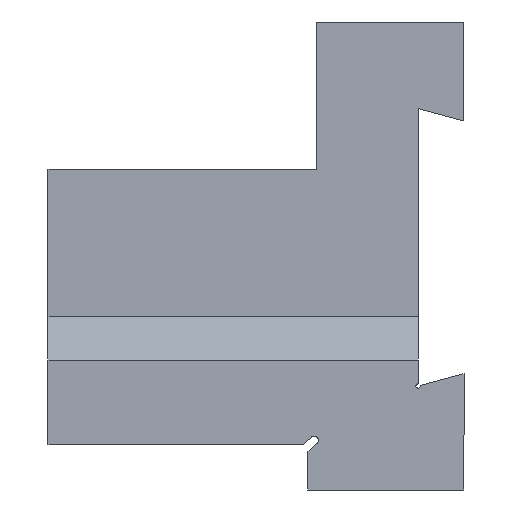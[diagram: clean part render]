
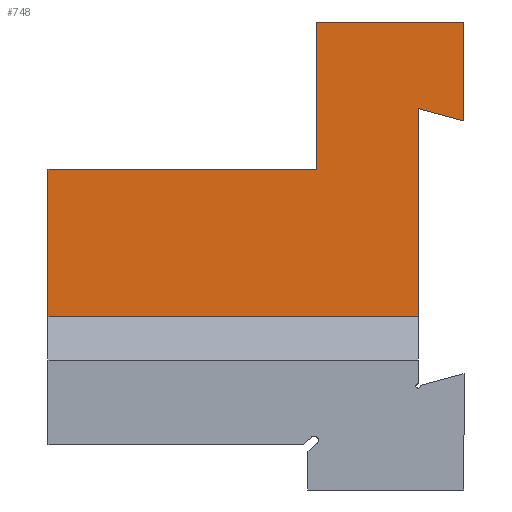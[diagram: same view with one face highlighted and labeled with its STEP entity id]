
A CAD part, front view. The second image highlights one B-rep face of the part: STEP entity #748.
In plain terms, the highlighted planar face has unit normal (0, -1, 0).
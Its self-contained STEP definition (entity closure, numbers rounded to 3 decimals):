
#88=FACE_OUTER_BOUND('',#138,.T.);
#138=EDGE_LOOP('',(#565,#566,#567,#568,#569,#570,#571,#572));
#186=LINE('',#1129,#258);
#198=LINE('',#1172,#270);
#211=LINE('',#1217,#283);
#212=LINE('',#1219,#284);
#213=LINE('',#1221,#285);
#214=LINE('',#1223,#286);
#215=LINE('',#1224,#287);
#216=LINE('',#1225,#288);
#258=VECTOR('',#892,1.);
#270=VECTOR('',#928,1.);
#283=VECTOR('',#967,1.);
#284=VECTOR('',#968,1.);
#285=VECTOR('',#969,1.);
#286=VECTOR('',#970,1.);
#287=VECTOR('',#971,1.);
#288=VECTOR('',#972,1.);
#329=VERTEX_POINT('',#1125);
#331=VERTEX_POINT('',#1128);
#349=VERTEX_POINT('',#1169);
#350=VERTEX_POINT('',#1171);
#369=VERTEX_POINT('',#1216);
#370=VERTEX_POINT('',#1218);
#371=VERTEX_POINT('',#1220);
#372=VERTEX_POINT('',#1222);
#402=EDGE_CURVE('',#331,#329,#186,.T.);
#424=EDGE_CURVE('',#349,#350,#198,.T.);
#447=EDGE_CURVE('',#350,#369,#211,.T.);
#448=EDGE_CURVE('',#370,#349,#212,.T.);
#449=EDGE_CURVE('',#370,#371,#213,.T.);
#450=EDGE_CURVE('',#371,#372,#214,.T.);
#451=EDGE_CURVE('',#331,#372,#215,.T.);
#452=EDGE_CURVE('',#369,#329,#216,.T.);
#565=ORIENTED_EDGE('',*,*,#447,.F.);
#566=ORIENTED_EDGE('',*,*,#424,.F.);
#567=ORIENTED_EDGE('',*,*,#448,.F.);
#568=ORIENTED_EDGE('',*,*,#449,.T.);
#569=ORIENTED_EDGE('',*,*,#450,.T.);
#570=ORIENTED_EDGE('',*,*,#451,.F.);
#571=ORIENTED_EDGE('',*,*,#402,.T.);
#572=ORIENTED_EDGE('',*,*,#452,.F.);
#724=PLANE('',#824);
#748=ADVANCED_FACE('',(#88),#724,.F.);
#824=AXIS2_PLACEMENT_3D('',#1215,#965,#966);
#892=DIRECTION('',(-1.,0.,0.));
#928=DIRECTION('',(0.,0.,1.));
#965=DIRECTION('center_axis',(0.,1.,0.));
#966=DIRECTION('ref_axis',(0.,0.,-1.));
#967=DIRECTION('',(1.,0.,0.));
#968=DIRECTION('',(-1.,0.,0.));
#969=DIRECTION('',(0.,0.,1.));
#970=DIRECTION('',(0.966,0.,-0.259));
#971=DIRECTION('',(0.,0.,-1.));
#972=DIRECTION('',(0.,0.,1.));
#1125=CARTESIAN_POINT('',(31.,5.,54.));
#1128=CARTESIAN_POINT('',(48.,5.,54.));
#1129=CARTESIAN_POINT('',(48.,5.,54.));
#1169=CARTESIAN_POINT('',(0.,5.,20.));
#1171=CARTESIAN_POINT('',(0.,5.,37.));
#1172=CARTESIAN_POINT('',(0.,5.,0.));
#1215=CARTESIAN_POINT('Origin',(48.,5.,54.));
#1216=CARTESIAN_POINT('',(31.,5.,37.));
#1217=CARTESIAN_POINT('',(48.,5.,37.));
#1218=CARTESIAN_POINT('',(42.7,5.,20.));
#1219=CARTESIAN_POINT('',(48.,5.,20.));
#1220=CARTESIAN_POINT('',(42.7,5.,44.));
#1221=CARTESIAN_POINT('',(42.7,5.,54.));
#1222=CARTESIAN_POINT('',(48.,5.,42.58));
#1223=CARTESIAN_POINT('',(45.145,5.,43.345));
#1224=CARTESIAN_POINT('',(48.,5.,54.));
#1225=CARTESIAN_POINT('',(31.,5.,54.));
